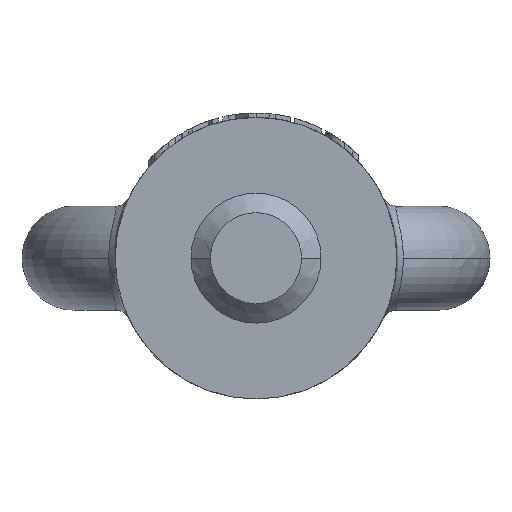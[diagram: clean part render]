
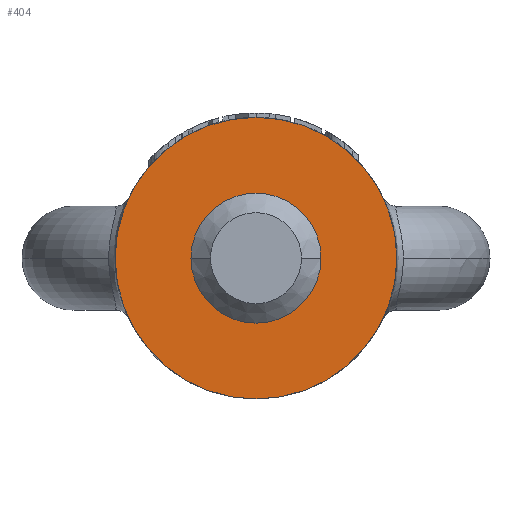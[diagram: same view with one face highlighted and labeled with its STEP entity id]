
A CAD part, front view. The second image highlights one B-rep face of the part: STEP entity #404.
In plain terms, the highlighted planar face has unit normal (0, -1, 0).
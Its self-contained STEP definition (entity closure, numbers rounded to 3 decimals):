
#404=ADVANCED_FACE('',(#814,#815),#816,.F.);
#814=FACE_OUTER_BOUND('',#1829,.T.);
#815=FACE_BOUND('',#1830,.T.);
#816=PLANE('',#1831);
#1829=EDGE_LOOP('',(#2865,#2866));
#1830=EDGE_LOOP('',(#2867,#2868));
#1831=AXIS2_PLACEMENT_3D('',#2869,#2870,#2871);
#2865=ORIENTED_EDGE('',*,*,#2920,.T.);
#2866=ORIENTED_EDGE('',*,*,#3000,.T.);
#2867=ORIENTED_EDGE('',*,*,#2937,.T.);
#2868=ORIENTED_EDGE('',*,*,#2964,.T.);
#2869=CARTESIAN_POINT('',(0.,-55.0,0.0));
#2870=DIRECTION('',(0.0,1.0,0.0));
#2871=DIRECTION('',(1.0,0.0,-0.0));
#2920=EDGE_CURVE('',#3405,#3402,#3406,.T.);
#2937=EDGE_CURVE('',#3435,#3432,#3436,.T.);
#2964=EDGE_CURVE('',#3432,#3435,#3472,.T.);
#3000=EDGE_CURVE('',#3402,#3405,#3515,.T.);
#3402=VERTEX_POINT('',#4146);
#3405=VERTEX_POINT('',#4150);
#3406=CIRCLE('',#4151,32.5);
#3432=VERTEX_POINT('',#4206);
#3435=VERTEX_POINT('',#4210);
#3436=CIRCLE('',#4211,12.5);
#3472=CIRCLE('',#4254,12.5);
#3515=CIRCLE('',#4398,32.5);
#4146=CARTESIAN_POINT('',(32.5,-55.0,0.));
#4150=CARTESIAN_POINT('',(-32.5,-55.0,0.));
#4151=AXIS2_PLACEMENT_3D('',#5642,#5643,#5644);
#4206=CARTESIAN_POINT('',(-12.5,-55.0,0.));
#4210=CARTESIAN_POINT('',(12.5,-55.0,0.));
#4211=AXIS2_PLACEMENT_3D('',#5668,#5669,#5670);
#4254=AXIS2_PLACEMENT_3D('',#5708,#5709,#5710);
#4398=AXIS2_PLACEMENT_3D('',#5744,#5745,#5746);
#5642=CARTESIAN_POINT('',(0.0,-55.0,0.0));
#5643=DIRECTION('',(0.0,-1.0,0.0));
#5644=DIRECTION('',(1.0,0.0,0.0));
#5668=CARTESIAN_POINT('',(0.0,-55.0,0.0));
#5669=DIRECTION('',(0.0,1.0,0.0));
#5670=DIRECTION('',(-1.0,0.0,0.0));
#5708=CARTESIAN_POINT('',(0.0,-55.0,0.0));
#5709=DIRECTION('',(0.0,1.0,0.0));
#5710=DIRECTION('',(-1.0,0.0,0.0));
#5744=CARTESIAN_POINT('',(0.0,-55.0,0.0));
#5745=DIRECTION('',(0.0,-1.0,0.0));
#5746=DIRECTION('',(1.0,0.0,0.0));
